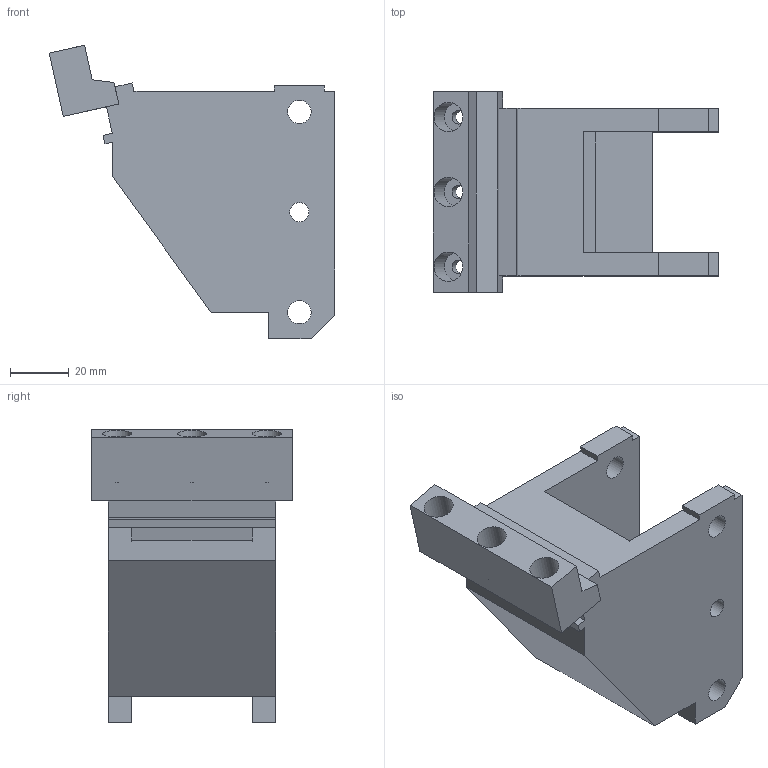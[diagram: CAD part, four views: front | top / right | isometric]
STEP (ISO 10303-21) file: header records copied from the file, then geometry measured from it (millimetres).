
FILE_DESCRIPTION(('Open CASCADE Model'),'2;1');
FILE_NAME('Open CASCADE Shape Model','2026-10-18T02:27:58',('Author'),( 'Open CASCADE'),'Open CASCADE STEP processor 7.9','Open CASCADE 7.9' ,'Unknown');
FILE_SCHEMA(('AUTOMOTIVE_DESIGN { 1 0 10303 214 1 1 1 1 }'));
Length unit declared in the file: millimetre
Products named in the file (1): Open CASCADE STEP translator 7.9 5
Bounding box: 96.95 x 68 x 99.65 mm (x, y, z)
Volume: 140097.2 mm3; surface area: 43582.9 mm2
Topology: 1 solids, 1 shells, 66 faces, 181 edges, 120 vertices
Faces by surface type: plane 53, cylinder 13
Full cylindrical faces by diameter (mm): 4.6 x3, 5 x1, 6.5 x2, 7.94 x4, 10 x3
Entity records: 4472 total; most frequent: CARTESIAN_POINT 916, DIRECTION 617, LINE 425, VECTOR 425, ORIENTED_EDGE 362, PCURVE 362, DEFINITIONAL_REPRESENTATION 362, EDGE_CURVE 181
